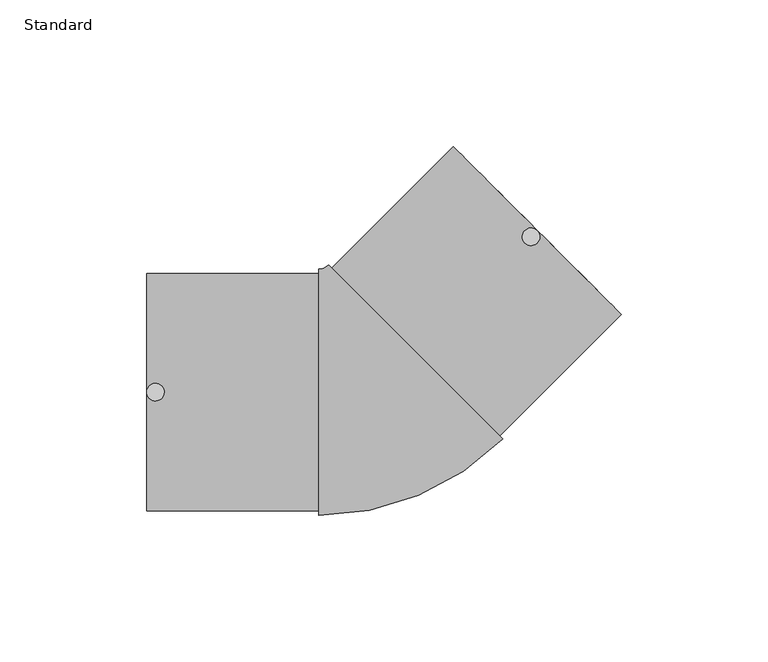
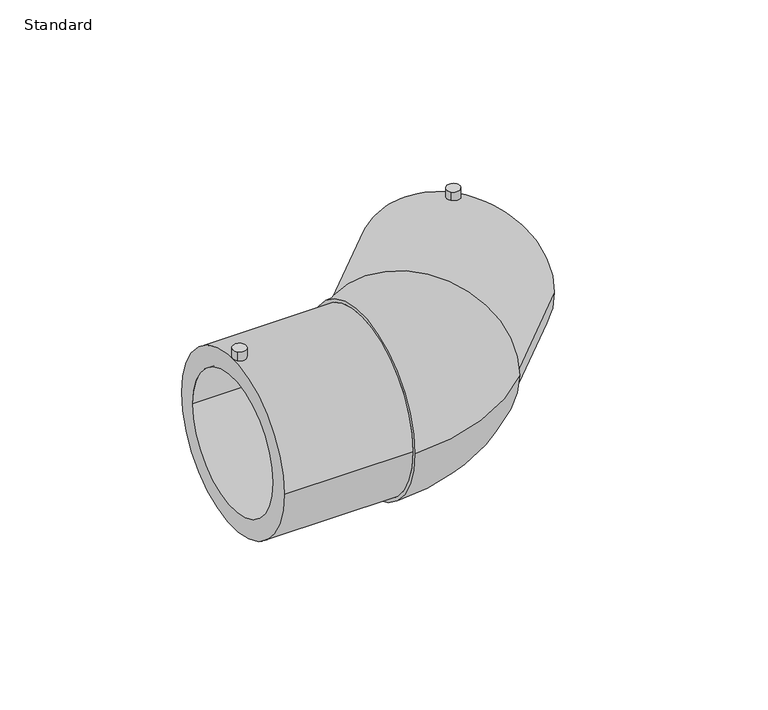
"""IFC4 building model written with IfcOpenShell, lengths in millimetres: pipe fitting geometry, EGB_VASEN_ PPR_Codo electrosoldable 90 WXRD200_Codo electrosoldable 45 WXRD220 : Standard."""

from ifc_helpers import new_model, si_unit, point, frame, frame_2d, origin, place, context, project, spatial, polyline, circle_curve, ellipse_curve, trimmed, segment, composite_curve, outline, extrude, source, transform, mapped, element, save
from ifc_brep_helpers import plane_surface, cylinder_surface, revolved_surface, advanced_brep


def standard_c520318b(model_context):
    return source(origin(), model_context, "Body", "SolidModel", [
        advanced_brep(
        [(-78.0, -40.5, 0.0), (-78.0, 40.5, 0.0), (-78.0, -31.5, 0.0), (-78.0, 31.5, 0.0), (-19.3969696, -40.5, 0.0), (-19.3969696, 40.5, 0.0), (-19.3969696, -31.5, 0.0), (-19.3969696, 31.5, 0.0), (-19.3969696, -42.0, 0.0), (-19.3969696, 42.0, 0.0), (43.4142136, -15.9827561, 0.0), (-15.9827561, 43.4142136, 0.0), (42.3535534, -14.9220959, 0.0), (-14.9220959, 42.3535534, 0.0), (35.9895924, -8.5581349, 0.0), (-8.5581349, 35.9895924, 0.0), (83.7921536, 26.5165043, 0.0), (26.5165043, 83.7921536, 0.0), (77.4281925, 32.8804653, 0.0), (32.8804653, 77.4281925, 0.0)],
        [
            (0, 1, circle_curve(frame((-78.0, 0.0, 0.0), z_axis=(-1.0, 0.0, 0.0), x_axis=(0.0, 1.0, 0.0)), 40.5)),
            (1, 0, circle_curve(frame((-78.0, 0.0, 0.0), z_axis=(-1.0, 0.0, 0.0), x_axis=(0.0, 1.0, 0.0)), 40.5)),
            (2, 3, circle_curve(frame((-78.0, 0.0, 0.0), z_axis=(1.0, 0.0, 0.0), x_axis=(0.0, 1.0, 0.0)), 31.5)),
            (3, 2, circle_curve(frame((-78.0, 0.0, 0.0), z_axis=(1.0, 0.0, 0.0), x_axis=(0.0, 1.0, 0.0)), 31.5)),
            (0, 4),
            (4, 5, circle_curve(frame((-19.3969696, 0.0, 0.0), z_axis=(-1.0, 0.0, 0.0), x_axis=(0.0, 1.0, 0.0)), 40.5)),
            (5, 1),
            (5, 4, circle_curve(frame((-19.3969696, 0.0, 0.0), z_axis=(-1.0, 0.0, 0.0), x_axis=(0.0, 1.0, 0.0)), 40.5)),
            (2, 6),
            (6, 7, circle_curve(frame((-19.3969696, 0.0, 0.0), z_axis=(1.0, 0.0, 0.0), x_axis=(0.0, 1.0, 0.0)), 31.5)),
            (7, 3),
            (7, 6, circle_curve(frame((-19.3969696, 0.0, 0.0), z_axis=(1.0, 0.0, 0.0), x_axis=(0.0, 1.0, 0.0)), 31.5)),
            (8, 9, circle_curve(frame((-19.3969696, 0.0, 0.0), z_axis=(-1.0, 0.0, 0.0), x_axis=(0.0, 1.0, 0.0)), 42.0)),
            (9, 8, circle_curve(frame((-19.3969696, 0.0, 0.0), z_axis=(-1.0, 0.0, 0.0), x_axis=(0.0, 1.0, 0.0)), 42.0)),
            (10, 11, circle_curve(frame((13.7157288, 13.7157288, 0.0), z_axis=(0.7071067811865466, 0.7071067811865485, 0.0), x_axis=(-0.7071067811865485, 0.7071067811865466, 0.0)), 42.0)),
            (11, 10, circle_curve(frame((13.7157288, 13.7157288, 0.0), z_axis=(0.7071067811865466, 0.7071067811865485, 0.0), x_axis=(-0.7071067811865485, 0.7071067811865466, 0.0)), 42.0)),
            (12, 13, circle_curve(frame((13.7157288, 13.7157288, 0.0), z_axis=(-0.7071067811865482, -0.7071067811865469, 0.0), x_axis=(-0.7071067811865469, 0.7071067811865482, 0.0)), 40.5)),
            (13, 12, circle_curve(frame((13.7157288, 13.7157288, 0.0), z_axis=(-0.7071067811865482, -0.7071067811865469, 0.0), x_axis=(-0.7071067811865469, 0.7071067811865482, 0.0)), 40.5)),
            (14, 15, circle_curve(frame((13.7157288, 13.7157288, 0.0), z_axis=(0.7071067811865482, 0.7071067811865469, 0.0), x_axis=(-0.7071067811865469, 0.7071067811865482, 0.0)), 31.5)),
            (15, 14, circle_curve(frame((13.7157288, 13.7157288, 0.0), z_axis=(0.7071067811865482, 0.7071067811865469, 0.0), x_axis=(-0.7071067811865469, 0.7071067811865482, 0.0)), 31.5)),
            (8, 10, circle_curve(frame((-19.3969696, 46.8284271, 0.0), z_axis=(0.0, 0.0, 1.0), x_axis=(0.0, -1.0, 0.0)), 88.8284271)),
            (11, 9, circle_curve(frame((-19.3969696, 46.8284271, 0.0), z_axis=(0.0, 0.0, -1.0), x_axis=(0.0, -1.0, 0.0)), 4.8284271)),
            (16, 17, circle_curve(frame((55.1543289, 55.1543289, 0.0), z_axis=(0.7071067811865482, 0.7071067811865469, 0.0), x_axis=(-0.7071067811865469, 0.7071067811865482, 0.0)), 40.5)),
            (17, 16, circle_curve(frame((55.1543289, 55.1543289, 0.0), z_axis=(0.7071067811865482, 0.7071067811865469, 0.0), x_axis=(-0.7071067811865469, 0.7071067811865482, 0.0)), 40.5)),
            (18, 19, circle_curve(frame((55.1543289, 55.1543289, 0.0), z_axis=(-0.7071067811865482, -0.7071067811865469, 0.0), x_axis=(-0.7071067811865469, 0.7071067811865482, 0.0)), 31.5)),
            (19, 18, circle_curve(frame((55.1543289, 55.1543289, 0.0), z_axis=(-0.7071067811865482, -0.7071067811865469, 0.0), x_axis=(-0.7071067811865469, 0.7071067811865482, 0.0)), 31.5)),
            (17, 13),
            (12, 16),
            (19, 15),
            (14, 18),
        ],
        [
            plane_surface(frame((-78.0, 0.0, 0.0), z_axis=(-1.0, 0.0, 0.0), x_axis=(0.0, 0.0, 1.0))),
            cylinder_surface(frame((-78.0, 0.0, 0.0), z_axis=(-1.0, 0.0, 0.0), x_axis=(0.0, 1.0, 0.0)), 40.5),
            revolved_surface(polyline([(-19.3969696, 31.5, 0.0), (-78.0, 31.5, 0.0)]), (-78.0, 0.0, 0.0), (1.0, 0.0, 0.0)),
            plane_surface(frame((-19.3969696, 0.0, 0.0), z_axis=(-1.0, 0.0, 0.0), x_axis=(0.0, 0.0, 1.0))),
            plane_surface(frame((13.7157288, 13.7157288, 0.0), z_axis=(0.7071067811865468, 0.7071067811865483, 0.0), x_axis=(0.0, 0.0, 1.0))),
            revolved_surface(trimmed(ellipse_curve(frame((-19.3969696, 0.0, 0.0), z_axis=(-1.0, 0.0, 0.0), x_axis=(0.0, 1.0, 0.0)), 42.0, 42.0), [point((-19.3969696, -42.0, 0.0))], [point((-19.3969696, 42.0, 0.0))], True, "CARTESIAN"), (-19.3969696, 46.8284271, 0.0), (0.0, 0.0, 1.0)),
            revolved_surface(trimmed(ellipse_curve(frame((-19.3969696, 0.0, 0.0), z_axis=(-1.0, 0.0, 0.0), x_axis=(0.0, 1.0, 0.0)), 42.0, 42.0), [point((-19.3969696, 42.0, 0.0))], [point((-19.3969696, -42.0, 0.0))], True, "CARTESIAN"), (-19.3969696, 46.8284271, 0.0), (0.0, 0.0, 1.0)),
            plane_surface(frame((55.1543289, 55.1543289, 0.0), z_axis=(0.7071067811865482, 0.7071067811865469, 0.0), x_axis=(0.0, 0.0, 1.0))),
            cylinder_surface(frame((13.7157288, 13.7157288, 0.0), z_axis=(-0.7071067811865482, -0.7071067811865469, 0.0), x_axis=(-0.7071067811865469, 0.7071067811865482, 0.0)), 40.5),
            revolved_surface(polyline([(32.88046529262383, 77.42819250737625, 0.0), (-8.558134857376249, 35.98959235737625, 0.0)]), (13.7157288, 13.7157288, 0.0), (0.7071067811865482, 0.7071067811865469, 0.0)),
        ],
        [
            (0, [[1, 2], [3, 4]]),
            (1, [[-1, 5, 6, 7]]),
            (1, [[-2, -7, 8, -5]]),
            (2, [[-3, 9, 10, 11]]),
            (2, [[-4, -11, 12, -9]]),
            (3, [[-10, -12]]),
            (3, [[13, 14], [-6, -8]]),
            (4, [[15, 16], [17, 18]]),
            (4, [[19, 20]]),
            (5, [[-13, 21, -16, 22]]),
            (6, [[-14, -22, -15, -21]]),
            (7, [[23, 24], [25, 26]]),
            (8, [[-24, 27, -17, 28]]),
            (8, [[-23, -28, -18, -27]]),
            (9, [[-26, 29, -19, 30]]),
            (9, [[-25, -30, -20, -29]]),
        ],
    ),
        extrude(outline(composite_curve([segment(trimmed(circle_curve(frame_2d((53.0330086, 53.0330086)), 3.0), [point((50.9116882, 50.9116882))], [point((55.1543289, 55.1543289))], False, "CARTESIAN"), True, "CONTINUOUS"), segment(trimmed(circle_curve(frame_2d((53.0330086, 53.0330086)), 3.0), [point((55.1543289, 55.1543289))], [point((50.9116882, 50.9116882))], False, "CARTESIAN"), True, "CONTINUOUS")], self_intersect=False)), frame((0.0, 0.0, 32.5), z_axis=(0.0, 0.0, 1.0), x_axis=(1.0, 0.0, 0.0)), (0.0, 0.0, 1.0), 12.5),
        extrude(outline(composite_curve([segment(trimmed(circle_curve(frame_2d((-75.0, 0.0)), 3.0), [point((-77.1213203, -2.1213203))], [point((-72.8786797, 2.1213203))], False, "CARTESIAN"), True, "CONTINUOUS"), segment(trimmed(circle_curve(frame_2d((-75.0, 0.0)), 3.0), [point((-72.8786797, 2.1213203))], [point((-77.1213203, -2.1213203))], False, "CARTESIAN"), True, "CONTINUOUS")], self_intersect=False)), frame((0.0, 0.0, 32.5), z_axis=(0.0, 0.0, 1.0), x_axis=(1.0, 0.0, 0.0)), (0.0, 0.0, 1.0), 12.5),
    ])


if __name__ == "__main__":
    model = new_model("IFC4")
    model_context = context("Model", 3, world=origin())
    ifc_project = project(units=[si_unit("LENGTHUNIT", "METRE", prefix="MILLI")], contexts=[model_context])
    site = spatial("IfcSite", under=ifc_project)
    building = spatial("IfcBuilding", under=site)
    placement = place(None, origin())
    standard_shape = standard_c520318b(model_context)
    element("IfcPipeFitting", 1, ObjectType="EGB_VASEN_ PPR_Codo electrosoldable 90 WXRD200_Codo electrosoldable 45 WXRD220 : Standard", at=placement, inside=building, context=model_context, shape_type="MappedRepresentation", body=[
        mapped(standard_shape, transform((0.0, 0.0, 0.0), x_axis=(1.0, 0.0, 0.0), y_axis=(0.0, 1.0, 0.0), z_axis=(0.0, 0.0, 1.0))),
    ])
    save(model, "model.ifc")
